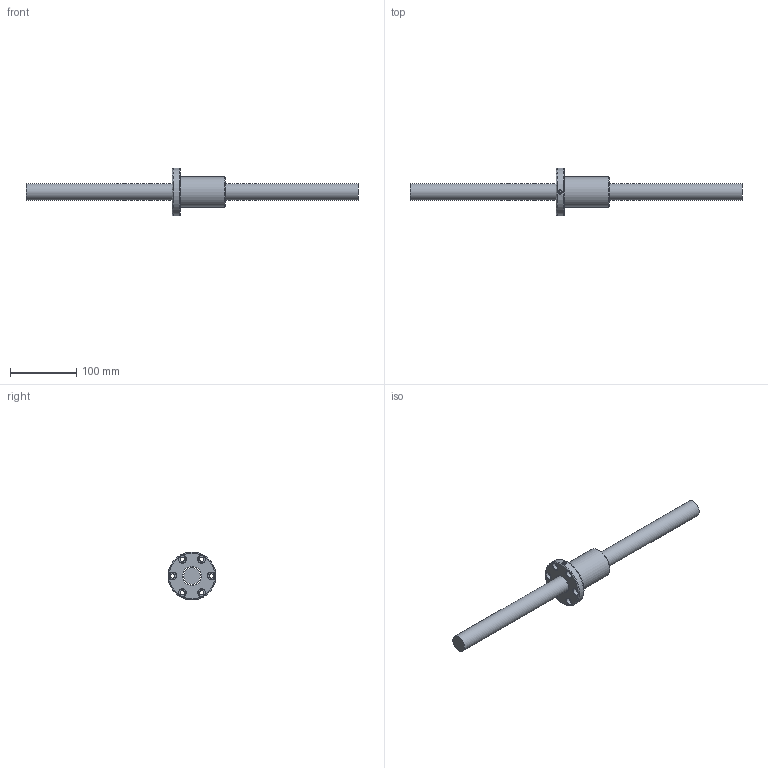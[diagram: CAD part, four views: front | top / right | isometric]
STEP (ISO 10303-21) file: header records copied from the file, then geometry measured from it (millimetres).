
FILE_DESCRIPTION (( 'STEP AP203' ), '1' );
FILE_NAME ('SFNI02510N-4.step', '2024-05-16T01:21:44', ( '' ), ( '' ), 'SwSTEP 2.0', 'SolidWorks 2022', '' );
FILE_SCHEMA (( 'CONFIG_CONTROL_DESIGN' ));
Length unit declared in the file: millimetre
Products named in the file (1): SFNI02510N-4
Bounding box: 500 x 72 x 72 mm (x, y, z)
Volume: 352042.7 mm3; surface area: 68275.6 mm2
Topology: 2 solids, 2 shells, 57 faces, 142 edges, 89 vertices
Faces by surface type: cylinder 24, cone 13, plane 12, bspline 5, torus 3
Full cylindrical faces by diameter (mm): 4 x1, 5 x6, 6.5 x6, 11 x6, 25 x1, 28.2 x1, 46 x1, 72 x1
Entity records: 3122 total; most frequent: CARTESIAN_POINT 2071, DIRECTION 206, ORIENTED_EDGE 148, EDGE_LOOP 102, AXIS2_PLACEMENT_3D 101, EDGE_CURVE 74, FACE_OUTER_BOUND 72, VERTEX_POINT 64
